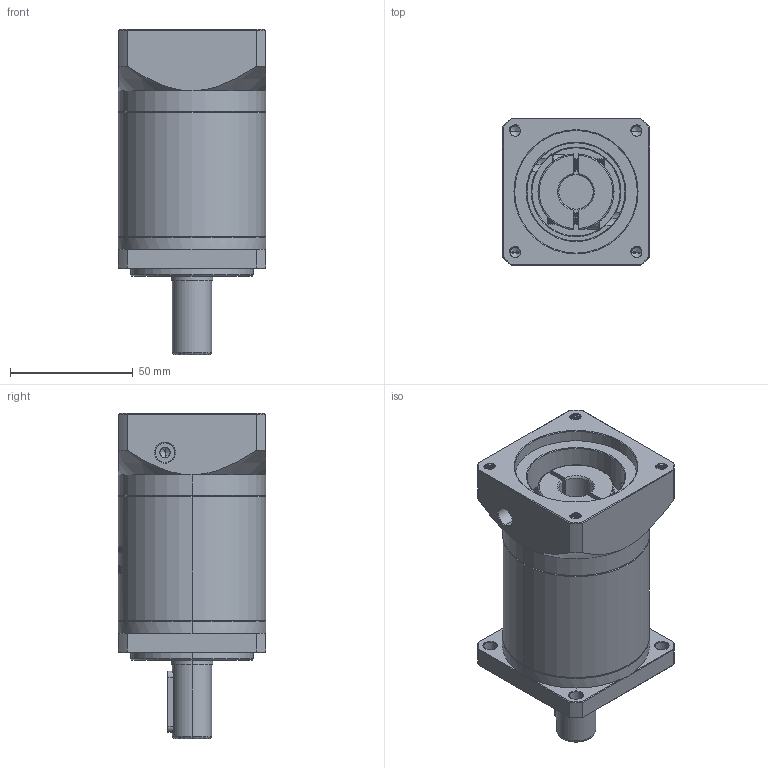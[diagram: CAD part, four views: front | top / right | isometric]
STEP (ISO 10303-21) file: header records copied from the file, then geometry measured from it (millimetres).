
FILE_DESCRIPTION (( 'STEP AP214' ), '1' );
FILE_NAME ('ZF060-D16-L2-P2-14-50-70-M5.step', '2023-08-16T04:27:16', ( '' ), ( '' ), 'SwSTEP 2.0', 'SolidWorks 2016', '' );
FILE_SCHEMA (( 'AUTOMOTIVE_DESIGN' ));
Length unit declared in the file: millimetre
Products named in the file (1): ZF060-D16-L2-P2-14-50-70-M5
Bounding box: 60 x 60 x 132.5 mm (x, y, z)
Volume: 271464.4 mm3; surface area: 47575.1 mm2
Topology: 6 solids, 6 shells, 1766 faces, 4782 edges, 3099 vertices
Faces by surface type: plane 794, cylinder 364, bspline 354, cone 236, torus 18
Entity records: 101507 total; most frequent: CARTESIAN_POINT 41916, ORIENTED_EDGE 9536, DIRECTION 6824, EDGE_CURVE 4768, VERTEX_POINT 3099, VECTOR 2428, LINE 2428, AXIS2_PLACEMENT_3D 2198
